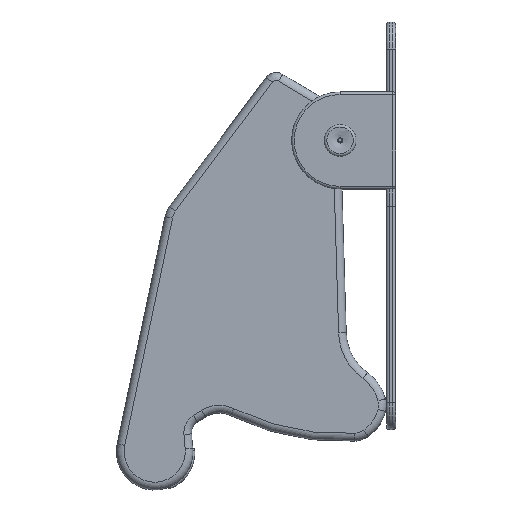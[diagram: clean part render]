
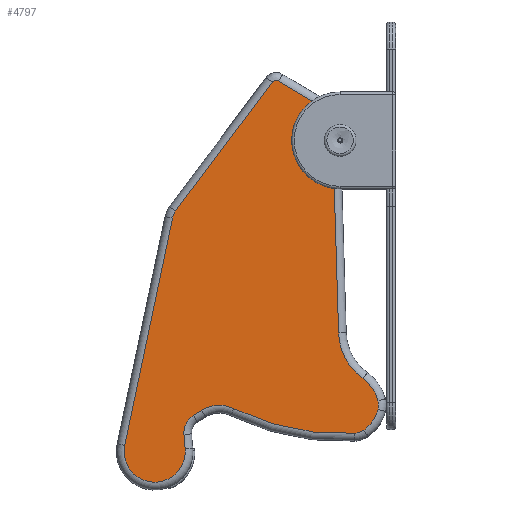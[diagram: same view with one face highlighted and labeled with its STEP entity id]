
A CAD part, top view. The second image highlights one B-rep face of the part: STEP entity #4797.
In plain terms, the highlighted planar face has unit normal (0, 0, 1).
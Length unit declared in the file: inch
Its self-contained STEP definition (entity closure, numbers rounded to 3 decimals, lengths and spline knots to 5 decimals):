
#121=FACE_BOUND('',#1472,.T.);
#190=PLANE('',#5418);
#479=LINE('',#13118,#777);
#480=LINE('',#13121,#778);
#481=LINE('',#13123,#779);
#482=LINE('',#13127,#780);
#483=LINE('',#13140,#781);
#484=LINE('',#13143,#782);
#485=LINE('',#13145,#783);
#777=VECTOR('',#6874,39.37008);
#778=VECTOR('',#6877,39.37008);
#779=VECTOR('',#6878,39.37008);
#780=VECTOR('',#6881,39.37008);
#781=VECTOR('',#6894,39.37008);
#782=VECTOR('',#6897,39.37008);
#783=VECTOR('',#6898,39.37008);
#1143=FACE_OUTER_BOUND('',#1471,.T.);
#1471=EDGE_LOOP('',(#4116,#4117,#4118,#4119,#4120,#4121,#4122,#4123,#4124,
#4125,#4126,#4127,#4128,#4129,#4130,#4131,#4132,#4133,#4134,#4135));
#1472=EDGE_LOOP('',(#4136));
#1765=CIRCLE('',#5285,0.12);
#1769=CIRCLE('',#5290,0.07625);
#1773=CIRCLE('',#5295,0.07);
#1794=CIRCLE('',#5324,0.03125);
#1851=CIRCLE('',#5419,0.07);
#1852=CIRCLE('',#5420,0.08);
#1853=CIRCLE('',#5421,0.13);
#1854=CIRCLE('',#5422,0.95289);
#1855=CIRCLE('',#5423,0.07);
#1856=CIRCLE('',#5424,0.13949);
#1857=CIRCLE('',#5425,0.15185);
#1858=CIRCLE('',#5426,0.22994);
#1859=CIRCLE('',#5427,0.08);
#1860=CIRCLE('',#5428,0.02);
#2190=VERTEX_POINT('',#12603);
#2191=VERTEX_POINT('',#12605);
#2194=VERTEX_POINT('',#12612);
#2195=VERTEX_POINT('',#12614);
#2198=VERTEX_POINT('',#12621);
#2199=VERTEX_POINT('',#12623);
#2223=VERTEX_POINT('',#12683);
#2336=VERTEX_POINT('',#13116);
#2337=VERTEX_POINT('',#13117);
#2338=VERTEX_POINT('',#13119);
#2339=VERTEX_POINT('',#13122);
#2340=VERTEX_POINT('',#13124);
#2341=VERTEX_POINT('',#13126);
#2342=VERTEX_POINT('',#13128);
#2343=VERTEX_POINT('',#13130);
#2344=VERTEX_POINT('',#13132);
#2345=VERTEX_POINT('',#13135);
#2346=VERTEX_POINT('',#13137);
#2347=VERTEX_POINT('',#13139);
#2348=VERTEX_POINT('',#13141);
#2349=VERTEX_POINT('',#13144);
#2765=EDGE_CURVE('',#2191,#2190,#1765,.T.);
#2769=EDGE_CURVE('',#2195,#2194,#1769,.T.);
#2773=EDGE_CURVE('',#2199,#2198,#1773,.T.);
#2802=EDGE_CURVE('',#2223,#2223,#1794,.T.);
#2965=EDGE_CURVE('',#2336,#2337,#479,.T.);
#2966=EDGE_CURVE('',#2337,#2338,#1851,.T.);
#2967=EDGE_CURVE('',#2338,#2191,#480,.T.);
#2968=EDGE_CURVE('',#2190,#2339,#481,.T.);
#2969=EDGE_CURVE('',#2339,#2340,#1852,.T.);
#2970=EDGE_CURVE('',#2340,#2341,#482,.T.);
#2971=EDGE_CURVE('',#2341,#2342,#1853,.T.);
#2972=EDGE_CURVE('',#2342,#2343,#1854,.T.);
#2973=EDGE_CURVE('',#2343,#2344,#1855,.T.);
#2974=EDGE_CURVE('',#2344,#2199,#1856,.T.);
#2975=EDGE_CURVE('',#2198,#2345,#1857,.T.);
#2976=EDGE_CURVE('',#2345,#2346,#1858,.T.);
#2977=EDGE_CURVE('',#2346,#2347,#483,.T.);
#2978=EDGE_CURVE('',#2347,#2348,#1859,.T.);
#2979=EDGE_CURVE('',#2348,#2195,#484,.T.);
#2980=EDGE_CURVE('',#2194,#2349,#485,.T.);
#2981=EDGE_CURVE('',#2349,#2336,#1860,.T.);
#4116=ORIENTED_EDGE('',*,*,#2965,.T.);
#4117=ORIENTED_EDGE('',*,*,#2966,.T.);
#4118=ORIENTED_EDGE('',*,*,#2967,.T.);
#4119=ORIENTED_EDGE('',*,*,#2765,.T.);
#4120=ORIENTED_EDGE('',*,*,#2968,.T.);
#4121=ORIENTED_EDGE('',*,*,#2969,.T.);
#4122=ORIENTED_EDGE('',*,*,#2970,.T.);
#4123=ORIENTED_EDGE('',*,*,#2971,.T.);
#4124=ORIENTED_EDGE('',*,*,#2972,.T.);
#4125=ORIENTED_EDGE('',*,*,#2973,.T.);
#4126=ORIENTED_EDGE('',*,*,#2974,.T.);
#4127=ORIENTED_EDGE('',*,*,#2773,.T.);
#4128=ORIENTED_EDGE('',*,*,#2975,.T.);
#4129=ORIENTED_EDGE('',*,*,#2976,.T.);
#4130=ORIENTED_EDGE('',*,*,#2977,.T.);
#4131=ORIENTED_EDGE('',*,*,#2978,.T.);
#4132=ORIENTED_EDGE('',*,*,#2979,.T.);
#4133=ORIENTED_EDGE('',*,*,#2769,.T.);
#4134=ORIENTED_EDGE('',*,*,#2980,.T.);
#4135=ORIENTED_EDGE('',*,*,#2981,.T.);
#4136=ORIENTED_EDGE('',*,*,#2802,.F.);
#4797=ADVANCED_FACE('',(#1143,#121),#190,.T.);
#5285=AXIS2_PLACEMENT_3D('',#12606,#6503,#6504);
#5290=AXIS2_PLACEMENT_3D('',#12615,#6513,#6514);
#5295=AXIS2_PLACEMENT_3D('',#12624,#6523,#6524);
#5324=AXIS2_PLACEMENT_3D('',#12685,#6589,#6590);
#5418=AXIS2_PLACEMENT_3D('',#13115,#6872,#6873);
#5419=AXIS2_PLACEMENT_3D('',#13120,#6875,#6876);
#5420=AXIS2_PLACEMENT_3D('',#13125,#6879,#6880);
#5421=AXIS2_PLACEMENT_3D('',#13129,#6882,#6883);
#5422=AXIS2_PLACEMENT_3D('',#13131,#6884,#6885);
#5423=AXIS2_PLACEMENT_3D('',#13133,#6886,#6887);
#5424=AXIS2_PLACEMENT_3D('',#13134,#6888,#6889);
#5425=AXIS2_PLACEMENT_3D('',#13136,#6890,#6891);
#5426=AXIS2_PLACEMENT_3D('',#13138,#6892,#6893);
#5427=AXIS2_PLACEMENT_3D('',#13142,#6895,#6896);
#5428=AXIS2_PLACEMENT_3D('',#13146,#6899,#6900);
#6503=DIRECTION('center_axis',(0.,0.,1.));
#6504=DIRECTION('ref_axis',(1.,0.,0.));
#6513=DIRECTION('center_axis',(0.,0.,1.));
#6514=DIRECTION('ref_axis',(1.,0.,0.));
#6523=DIRECTION('center_axis',(0.,0.,1.));
#6524=DIRECTION('ref_axis',(1.,0.,0.));
#6589=DIRECTION('center_axis',(0.,0.,1.));
#6590=DIRECTION('ref_axis',(1.,0.,0.));
#6872=DIRECTION('center_axis',(0.,0.,1.));
#6873=DIRECTION('ref_axis',(1.,0.,0.));
#6874=DIRECTION('',(-0.6,-0.8,0.));
#6875=DIRECTION('center_axis',(0.,0.,1.));
#6876=DIRECTION('ref_axis',(1.,0.,0.));
#6877=DIRECTION('',(-0.206,-0.979,0.));
#6878=DIRECTION('',(-0.087,0.996,0.));
#6879=DIRECTION('center_axis',(0.,0.,-1.));
#6880=DIRECTION('ref_axis',(1.,0.,0.));
#6881=DIRECTION('',(0.845,0.534,0.));
#6882=DIRECTION('center_axis',(0.,0.,-1.));
#6883=DIRECTION('ref_axis',(1.,0.,0.));
#6884=DIRECTION('center_axis',(0.,0.,1.));
#6885=DIRECTION('ref_axis',(1.,0.,0.));
#6886=DIRECTION('center_axis',(0.,0.,1.));
#6887=DIRECTION('ref_axis',(1.,0.,0.));
#6888=DIRECTION('center_axis',(0.,0.,1.));
#6889=DIRECTION('ref_axis',(1.,0.,0.));
#6890=DIRECTION('center_axis',(0.,0.,1.));
#6891=DIRECTION('ref_axis',(1.,0.,0.));
#6892=DIRECTION('center_axis',(0.,0.,-1.));
#6893=DIRECTION('ref_axis',(1.,0.,0.));
#6894=DIRECTION('',(-0.03,1.,0.));
#6895=DIRECTION('center_axis',(0.,0.,-1.));
#6896=DIRECTION('ref_axis',(1.,0.,0.));
#6897=DIRECTION('',(0.719,0.695,0.));
#6898=DIRECTION('',(-0.857,0.515,0.));
#6899=DIRECTION('center_axis',(0.,0.,1.));
#6900=DIRECTION('ref_axis',(1.,0.,0.));
#12603=CARTESIAN_POINT('',(-0.80723,-0.87497,0.29528));
#12605=CARTESIAN_POINT('',(-1.04421,-0.86076,0.29528));
#12606=CARTESIAN_POINT('Origin',(-0.92677,-0.88543,
0.29528));
#12612=CARTESIAN_POINT('',(-0.16073,0.4,0.29528));
#12614=CARTESIAN_POINT('',(-0.14703,0.2798,0.29528));
#12615=CARTESIAN_POINT('Origin',(-0.2,0.33465,0.29528));
#12621=CARTESIAN_POINT('',(-0.05117,-0.6861,0.29528));
#12623=CARTESIAN_POINT('',(-0.05105,-0.72012,0.29528));
#12624=CARTESIAN_POINT('Origin',(-0.11901,-0.70335,
0.29528));
#12683=CARTESIAN_POINT('',(-0.23125,0.33465,0.29528));
#12685=CARTESIAN_POINT('Origin',(-0.2,0.33465,0.29528));
#13115=CARTESIAN_POINT('Origin',(-0.92677,-0.88543,
0.29528));
#13116=CARTESIAN_POINT('',(-0.4661,0.56254,0.29528));
#13117=CARTESIAN_POINT('',(-0.84445,0.05802,0.29528));
#13118=CARTESIAN_POINT('',(-1.32692,-0.58536,0.29528));
#13119=CARTESIAN_POINT('',(-0.85695,0.03042,0.29528));
#13120=CARTESIAN_POINT('Origin',(-0.78845,0.01602,0.29528));
#13121=CARTESIAN_POINT('',(-1.04421,-0.86076,0.29528));
#13122=CARTESIAN_POINT('',(-0.81216,-0.81865,0.29528));
#13123=CARTESIAN_POINT('',(-0.80723,-0.87497,0.29528));
#13124=CARTESIAN_POINT('',(-0.77521,-0.74406,0.29528));
#13125=CARTESIAN_POINT('Origin',(-0.73246,-0.81168,
0.29528));
#13126=CARTESIAN_POINT('',(-0.7433,-0.72388,0.29528));
#13127=CARTESIAN_POINT('',(-0.94735,-0.85288,0.29528));
#13128=CARTESIAN_POINT('',(-0.61642,-0.71713,0.29528));
#13129=CARTESIAN_POINT('Origin',(-0.67383,-0.83377,
0.29528));
#13130=CARTESIAN_POINT('',(-0.14295,-0.81365,0.29528));
#13131=CARTESIAN_POINT('Origin',(-0.19556,0.13779,0.29528));
#13132=CARTESIAN_POINT('',(-0.10685,-0.80123,0.29528));
#13133=CARTESIAN_POINT('Origin',(-0.14681,-0.74376,0.29528));
#13134=CARTESIAN_POINT('Origin',(-0.18648,-0.6867,0.29528));
#13135=CARTESIAN_POINT('',(-0.10985,-0.60011,0.29528));
#13136=CARTESIAN_POINT('Origin',(-0.19834,-0.72352,
0.29528));
#13137=CARTESIAN_POINT('',(-0.20571,-0.42006,0.29528));
#13138=CARTESIAN_POINT('Origin',(0.02413,-0.41324,
0.29528));
#13139=CARTESIAN_POINT('',(-0.22322,0.16986,0.29528));
#13140=CARTESIAN_POINT('',(-0.19254,-0.86364,0.29528));
#13141=CARTESIAN_POINT('',(-0.19882,0.22978,0.29528));
#13142=CARTESIAN_POINT('Origin',(-0.14325,0.17223,0.29528));
#13143=CARTESIAN_POINT('',(-1.13277,-0.67212,0.29528));
#13144=CARTESIAN_POINT('',(-0.4398,0.56769,0.29528));
#13145=CARTESIAN_POINT('',(-0.15608,0.39721,0.29528));
#13146=CARTESIAN_POINT('Origin',(-0.4501,0.55055,0.29528));
